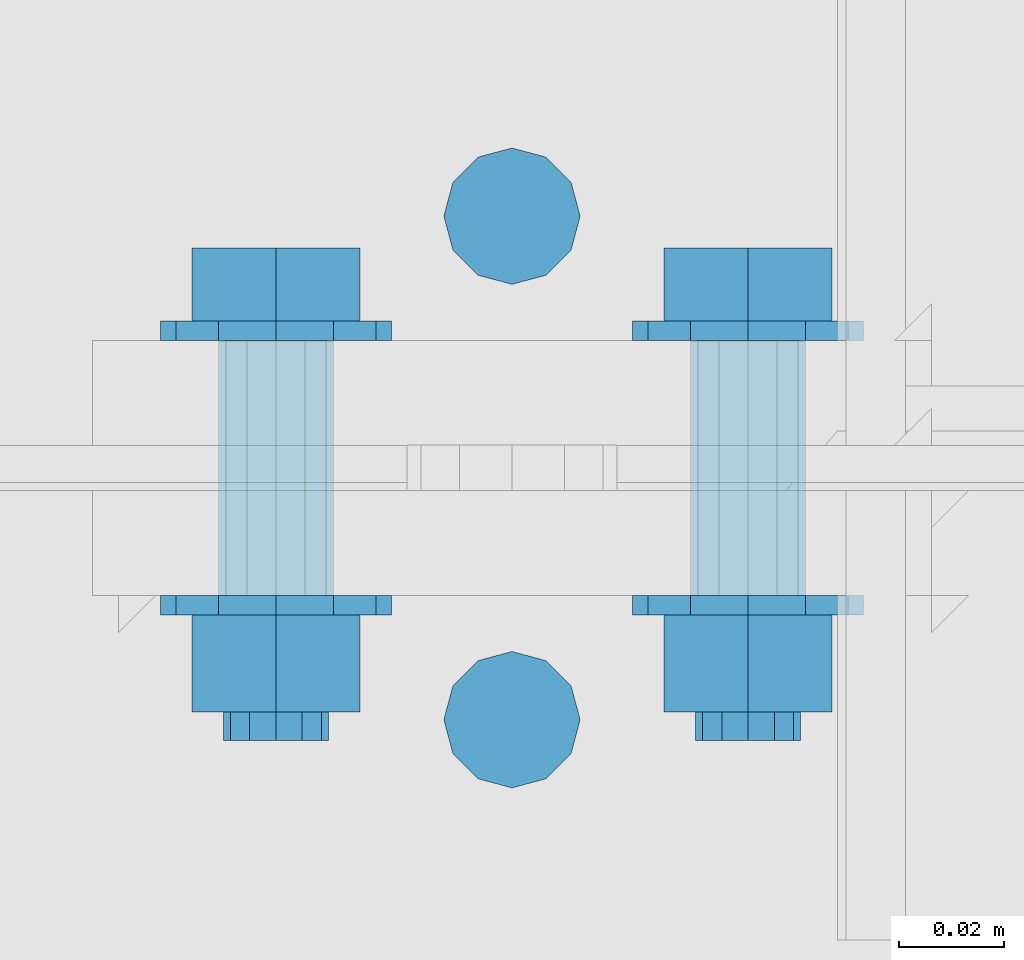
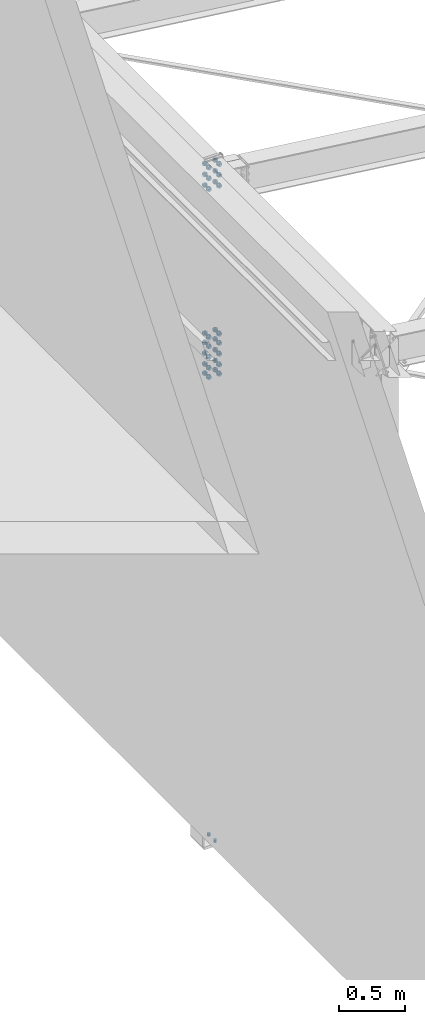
# One storey, part 31 of 3134: 3 mechanical fasteners, 2 elements without a shape of their own.
"""IFC2X3 building model written with IfcOpenShell, lengths in millimetres."""

from ifc_helpers import new_model, si_unit, frame, origin_with_axes, place, context, subcontext, project, spatial, faceted_brep, source, transform, mapped, material, type_object, element, aggregate, save


model = new_model("IFC2X3")

# Units and contexts
model_context = context("Model", 3, precision=1e-05, world=origin_with_axes())
body_context = subcontext(model_context, "Body", "Model", "MODEL_VIEW")
ifc_project = project(units=[si_unit("LENGTHUNIT", "METRE", prefix="MILLI"), si_unit("AREAUNIT", "SQUARE_METRE"), si_unit("VOLUMEUNIT", "CUBIC_METRE"), si_unit("MASSUNIT", "GRAM", prefix="KILO"), si_unit("TIMEUNIT", "SECOND"), si_unit("PLANEANGLEUNIT", "RADIAN"), si_unit("SOLIDANGLEUNIT", "STERADIAN"), si_unit("THERMODYNAMICTEMPERATUREUNIT", "DEGREE_CELSIUS"), si_unit("LUMINOUSINTENSITYUNIT", "LUMEN")], contexts=[model_context])

# Site, building, storey
site_placement = place(None, origin_with_axes())
site = spatial("IfcSite", under=ifc_project, at=site_placement, CompositionType="ELEMENT")
building_placement = place(site_placement, origin_with_axes())
building = spatial("IfcBuilding", under=site, at=building_placement, Name="Undefined", CompositionType="ELEMENT")
storey_placement = place(building_placement, origin_with_axes())
storey = spatial("IfcBuildingStorey", under=building, at=storey_placement, Name="Undefined", CompositionType="ELEMENT", Elevation=0.0)

# Assembly, mechanical fasteners
assembly_1_placement = place(storey_placement, origin_with_axes())
assembly_1 = element("IfcElementAssembly", 1, at=assembly_1_placement, inside=storey, Name="300", AssemblyPlace="NOTDEFINED", PredefinedType="RIGID_FRAME")
ifc_material_1 = material(Name="HR10.9")
mechanical_fastener_type = type_object("IfcMechanicalFastenerType", Name="Bolt assembly")
shared_shape_1 = source(origin_with_axes(), body_context, "Body", "Brep", [
    faceted_brep([(18.475208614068, -61.8999996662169, 0.0), (9.23760430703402, -61.8999996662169, 16.0), (-9.23760430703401, -61.8999996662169, 16.0), (-18.475208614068, -61.8999996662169, 2.2625605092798e-15), (-9.23760430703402, -61.8999996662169, -16.0), (9.237604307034, -61.8999996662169, -16.0), (9.237604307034, -48.0000000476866, -16.0), (-9.23760430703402, -48.0000000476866, -16.0), (-18.475208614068, -48.0000000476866, 2.2625605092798e-15), (-9.23760430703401, -48.0000000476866, 16.0), (9.23760430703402, -48.0000000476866, 16.0), (18.475208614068, -48.0000000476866, 0.0), (10.0, -48.0000000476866, 0.0), (8.66025403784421, -48.0000000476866, 5.0000000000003), (4.9999999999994, -48.0000000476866, 8.66025403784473), (-1.03633598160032e-12, -48.0000000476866, 10.0), (-5.00000000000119, -48.0000000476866, 8.6602540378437), (-8.66025403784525, -48.0000000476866, 4.99999999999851), (-10.0, -48.0000000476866, -2.07267196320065e-12), (-8.66025403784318, -48.0000000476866, -5.00000000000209), (-4.99999999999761, -48.0000000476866, -8.66025403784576), (3.09790571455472e-12, -48.0000000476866, -10.0), (5.00000000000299, -48.0000000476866, -8.66025403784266), (8.66025403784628, -48.0000000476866, -4.99999999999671), (8.66025403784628, 31.9999999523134, -4.99999999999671), (5.00000000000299, 31.9999999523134, -8.66025403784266), (3.09790571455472e-12, 31.9999999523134, -10.0), (-4.99999999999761, 31.9999999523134, -8.66025403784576), (-8.66025403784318, 31.9999999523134, -5.00000000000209), (-10.0, 31.9999999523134, -2.07267196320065e-12), (-8.66025403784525, 31.9999999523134, 4.99999999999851), (-5.00000000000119, 31.9999999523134, 8.6602540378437), (-1.03633598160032e-12, 31.9999999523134, 10.0), (4.9999999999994, 31.9999999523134, 8.66025403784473), (8.66025403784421, 31.9999999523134, 5.0000000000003), (10.0, 31.9999999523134, 0.0), (22.0, -48.0000000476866, 0.0), (19.0525588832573, -48.0000000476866, 11.0000000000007), (10.9999999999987, -48.0000000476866, 19.0525588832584), (-2.27993915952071e-12, -48.0000000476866, 22.0), (-11.0000000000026, -48.0000000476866, 19.0525588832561), (-19.0525588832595, -48.0000000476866, 10.9999999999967), (-22.0, -48.0000000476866, -4.55987831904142e-12), (-19.052558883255, -48.0000000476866, -11.0000000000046), (-10.9999999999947, -48.0000000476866, -19.0525588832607), (6.81539257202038e-12, -48.0000000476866, -22.0), (11.0000000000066, -48.0000000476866, -19.0525588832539), (19.0525588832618, -48.0000000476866, -10.9999999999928), (19.0525588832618, -44.3000000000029, -10.9999999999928), (11.0000000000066, -44.3000000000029, -19.0525588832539), (6.81539257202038e-12, -44.3000000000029, -22.0), (-10.9999999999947, -44.3000000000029, -19.0525588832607), (-19.052558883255, -44.3000000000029, -11.0000000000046), (-22.0, -44.3000000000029, -4.55987831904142e-12), (-19.0525588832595, -44.3000000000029, 10.9999999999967), (-11.0000000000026, -44.3000000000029, 19.0525588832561), (-2.27993915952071e-12, -44.3000000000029, 22.0), (10.9999999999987, -44.3000000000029, 19.0525588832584), (19.0525588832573, -44.3000000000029, 11.0000000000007), (22.0, -44.3000000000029, 0.0), (22.0, 4.30000000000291, 0.0), (19.0525588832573, 4.30000000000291, 11.0000000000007), (10.9999999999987, 4.30000000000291, 19.0525588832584), (-2.27993915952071e-12, 4.30000000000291, 22.0), (-11.0000000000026, 4.30000000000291, 19.0525588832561), (-19.0525588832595, 4.30000000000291, 10.9999999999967), (-22.0, 4.30000000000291, -4.55987831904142e-12), (-19.052558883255, 4.30000000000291, -11.0000000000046), (-10.9999999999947, 4.30000000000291, -19.0525588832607), (6.81539257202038e-12, 4.30000000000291, -22.0), (11.0000000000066, 4.30000000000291, -19.0525588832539), (19.0525588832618, 4.30000000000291, -10.9999999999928), (19.0525588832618, 8.00000004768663, -10.9999999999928), (11.0000000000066, 8.00000004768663, -19.0525588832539), (6.81539257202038e-12, 8.00000004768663, -22.0), (-10.9999999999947, 8.00000004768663, -19.0525588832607), (-19.052558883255, 8.00000004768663, -11.0000000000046), (-22.0, 8.00000004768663, -4.55987831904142e-12), (-19.0525588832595, 8.00000004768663, 10.9999999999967), (-11.0000000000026, 8.00000004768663, 19.0525588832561), (-2.27993915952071e-12, 8.00000004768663, 22.0), (10.9999999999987, 8.00000004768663, 19.0525588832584), (19.0525588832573, 8.00000004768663, 11.0000000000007), (22.0, 8.00000004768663, 0.0), (18.475208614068, 8.00000004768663, 0.0), (9.23760430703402, 8.00000004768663, 16.0), (-9.23760430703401, 8.00000004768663, 16.0), (-18.475208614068, 8.00000004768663, 2.2625605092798e-15), (-9.23760430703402, 8.00000004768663, -16.0), (9.237604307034, 8.00000004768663, -16.0), (9.237604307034, 26.5499992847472, -16.0), (-9.23760430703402, 26.5499992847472, -16.0), (-18.475208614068, 26.5499992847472, 2.2625605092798e-15), (-9.23760430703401, 26.5499992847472, 16.0), (9.23760430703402, 26.5499992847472, 16.0), (18.475208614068, 26.5499992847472, 0.0)], [[[0, 1, 2, 3, 4, 5]], [[6, 7, 8, 9, 10, 11]], [[0, 11, 10, 1]], [[1, 10, 9, 2]], [[2, 9, 8, 3]], [[3, 8, 7, 4]], [[4, 7, 6, 5]], [[5, 6, 11, 0]], [[12, 13, 14, 15, 16, 17, 18, 19, 20, 21, 22, 23]], [[24, 25, 26, 27, 28, 29, 30, 31, 32, 33, 34, 35]], [[12, 35, 34, 13]], [[13, 34, 33, 14]], [[14, 33, 32, 15]], [[15, 32, 31, 16]], [[16, 31, 30, 17]], [[17, 30, 29, 18]], [[18, 29, 28, 19]], [[19, 28, 27, 20]], [[20, 27, 26, 21]], [[21, 26, 25, 22]], [[22, 25, 24, 23]], [[23, 24, 35, 12]], [[36, 37, 38, 39, 40, 41, 42, 43, 44, 45, 46, 47]], [[48, 49, 50, 51, 52, 53, 54, 55, 56, 57, 58, 59]], [[36, 59, 58, 37]], [[37, 58, 57, 38]], [[38, 57, 56, 39]], [[39, 56, 55, 40]], [[40, 55, 54, 41]], [[41, 54, 53, 42]], [[42, 53, 52, 43]], [[43, 52, 51, 44]], [[44, 51, 50, 45]], [[45, 50, 49, 46]], [[46, 49, 48, 47]], [[47, 48, 59, 36]], [[60, 61, 62, 63, 64, 65, 66, 67, 68, 69, 70, 71]], [[72, 73, 74, 75, 76, 77, 78, 79, 80, 81, 82, 83]], [[60, 83, 82, 61]], [[61, 82, 81, 62]], [[62, 81, 80, 63]], [[63, 80, 79, 64]], [[64, 79, 78, 65]], [[65, 78, 77, 66]], [[66, 77, 76, 67]], [[67, 76, 75, 68]], [[68, 75, 74, 69]], [[69, 74, 73, 70]], [[70, 73, 72, 71]], [[71, 72, 83, 60]], [[84, 85, 86, 87, 88, 89]], [[90, 91, 92, 93, 94, 95]], [[84, 95, 94, 85]], [[85, 94, 93, 86]], [[86, 93, 92, 87]], [[87, 92, 91, 88]], [[88, 91, 90, 89]], [[89, 90, 95, 84]]]),
    faceted_brep([(11.0, -24.3000001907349, 0.0), (9.52627944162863, -24.3000001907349, 5.50000000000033), (5.49999999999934, -24.3000001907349, 9.5262794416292), (-1.13996957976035e-12, -24.3000001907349, 11.0), (-5.50000000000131, -24.3000001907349, 9.52627944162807), (-9.52627944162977, -24.3000001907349, 5.49999999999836), (-11.0, -24.3000001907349, -2.27993915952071e-12), (-9.5262794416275, -24.3000001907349, -5.5000000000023), (-5.49999999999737, -24.3000001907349, -9.52627944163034), (3.40769628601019e-12, -24.3000001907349, -11.0), (5.50000000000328, -24.3000001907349, -9.52627944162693), (9.52627944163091, -24.3000001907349, -5.49999999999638), (9.52627944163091, -15.6999998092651, -5.49999999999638), (5.50000000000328, -15.6999998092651, -9.52627944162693), (3.40769628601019e-12, -15.6999998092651, -11.0), (-5.49999999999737, -15.6999998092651, -9.52627944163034), (-9.5262794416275, -15.6999998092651, -5.5000000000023), (-11.0, -15.6999998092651, -2.27993915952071e-12), (-9.52627944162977, -15.6999998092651, 5.49999999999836), (-5.50000000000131, -15.6999998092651, 9.52627944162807), (-1.13996957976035e-12, -15.6999998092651, 11.0), (5.49999999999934, -15.6999998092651, 9.5262794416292), (9.52627944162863, -15.6999998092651, 5.50000000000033), (11.0, -15.6999998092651, 0.0), (11.0, -44.2000000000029, 0.0), (9.52627944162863, -44.2000000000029, 5.50000000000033), (5.49999999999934, -44.2000000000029, 9.5262794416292), (-1.13996957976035e-12, -44.2000000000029, 11.0), (-5.50000000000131, -44.2000000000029, 9.52627944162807), (-9.52627944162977, -44.2000000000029, 5.49999999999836), (-11.0, -44.2000000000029, -2.27993915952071e-12), (-9.5262794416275, -44.2000000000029, -5.5000000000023), (-5.49999999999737, -44.2000000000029, -9.52627944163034), (3.40769628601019e-12, -44.2000000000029, -11.0), (5.50000000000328, -44.2000000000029, -9.52627944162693), (9.52627944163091, -44.2000000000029, -5.49999999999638), (9.52627944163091, -24.2000000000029, -5.49999999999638), (5.50000000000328, -24.2000000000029, -9.52627944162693), (3.40769628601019e-12, -24.2000000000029, -11.0), (-5.49999999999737, -24.2000000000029, -9.52627944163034), (-9.5262794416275, -24.2000000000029, -5.5000000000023), (-11.0, -24.2000000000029, -2.27993915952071e-12), (-9.52627944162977, -24.2000000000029, 5.49999999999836), (-5.50000000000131, -24.2000000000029, 9.52627944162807), (-1.13996957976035e-12, -24.2000000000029, 11.0), (5.49999999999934, -24.2000000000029, 9.5262794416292), (9.52627944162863, -24.2000000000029, 5.50000000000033), (11.0, -24.2000000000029, 0.0), (11.0, -15.7999999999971, 0.0), (9.52627944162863, -15.7999999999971, 5.50000000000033), (5.49999999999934, -15.7999999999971, 9.5262794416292), (-1.13996957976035e-12, -15.7999999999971, 11.0), (-5.50000000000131, -15.7999999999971, 9.52627944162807), (-9.52627944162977, -15.7999999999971, 5.49999999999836), (-11.0, -15.7999999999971, -2.27993915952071e-12), (-9.5262794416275, -15.7999999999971, -5.5000000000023), (-5.49999999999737, -15.7999999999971, -9.52627944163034), (3.40769628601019e-12, -15.7999999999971, -11.0), (5.50000000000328, -15.7999999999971, -9.52627944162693), (9.52627944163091, -15.7999999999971, -5.49999999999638), (9.52627944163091, 4.30000000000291, -5.49999999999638), (5.50000000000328, 4.30000000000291, -9.52627944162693), (3.40769628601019e-12, 4.30000000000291, -11.0), (-5.49999999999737, 4.30000000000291, -9.52627944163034), (-9.5262794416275, 4.30000000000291, -5.5000000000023), (-11.0, 4.30000000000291, -2.27993915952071e-12), (-9.52627944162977, 4.30000000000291, 5.49999999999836), (-5.50000000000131, 4.30000000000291, 9.52627944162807), (-1.13996957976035e-12, 4.30000000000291, 11.0), (5.49999999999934, 4.30000000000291, 9.5262794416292), (9.52627944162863, 4.30000000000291, 5.50000000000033), (11.0, 4.30000000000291, 0.0)], [[[0, 1, 2, 3, 4, 5, 6, 7, 8, 9, 10, 11]], [[12, 13, 14, 15, 16, 17, 18, 19, 20, 21, 22, 23]], [[0, 23, 22, 1]], [[1, 22, 21, 2]], [[2, 21, 20, 3]], [[3, 20, 19, 4]], [[4, 19, 18, 5]], [[5, 18, 17, 6]], [[6, 17, 16, 7]], [[7, 16, 15, 8]], [[8, 15, 14, 9]], [[9, 14, 13, 10]], [[10, 13, 12, 11]], [[11, 12, 23, 0]], [[24, 25, 26, 27, 28, 29, 30, 31, 32, 33, 34, 35]], [[36, 37, 38, 39, 40, 41, 42, 43, 44, 45, 46, 47]], [[24, 47, 46, 25]], [[25, 46, 45, 26]], [[26, 45, 44, 27]], [[27, 44, 43, 28]], [[28, 43, 42, 29]], [[29, 42, 41, 30]], [[30, 41, 40, 31]], [[31, 40, 39, 32]], [[32, 39, 38, 33]], [[33, 38, 37, 34]], [[34, 37, 36, 35]], [[35, 36, 47, 24]], [[48, 49, 50, 51, 52, 53, 54, 55, 56, 57, 58, 59]], [[60, 61, 62, 63, 64, 65, 66, 67, 68, 69, 70, 71]], [[48, 71, 70, 49]], [[49, 70, 69, 50]], [[50, 69, 68, 51]], [[51, 68, 67, 52]], [[52, 67, 66, 53]], [[53, 66, 65, 54]], [[54, 65, 64, 55]], [[55, 64, 63, 56]], [[56, 63, 62, 57]], [[57, 62, 61, 58]], [[58, 61, 60, 59]], [[59, 60, 71, 48]]]),
])
mechanical_fastener_1_placement = place(assembly_1_placement, frame((20850.0, 7630.0, 5841.5), z_axis=(-1.0, 0.0, 0.0), x_axis=(0.0, 0.0, -1.0)))
mechanical_fastener_1 = element("IfcMechanicalFastener", 2, at=mechanical_fastener_1_placement, type_object=mechanical_fastener_type, material=ifc_material_1, Name="Bolt assembly", NominalDiameter=20.0, NominalLength=80.0, context=body_context, shape_type="MappedRepresentation", body=[
    mapped(shared_shape_1, transform((0.0, 0.0, -45.0))),
    mapped(shared_shape_1, transform((100.0, 0.0, -45.0))),
    mapped(shared_shape_1, transform((200.0, 0.0, -45.0))),
    mapped(shared_shape_1, transform((0.0, 0.0, 45.0))),
    mapped(shared_shape_1, transform((100.0, 0.0, 45.0))),
    mapped(shared_shape_1, transform((200.0, 0.0, 45.0))),
])
shared_shape_2 = source(origin_with_axes(), body_context, "Body", "Brep", [
    faceted_brep([(18.475208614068, -17.599999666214, 0.0), (9.23760430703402, -17.599999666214, 16.0), (-9.23760430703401, -17.599999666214, 16.0), (-18.475208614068, -17.599999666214, 2.2625605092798e-15), (-9.23760430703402, -17.599999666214, -16.0), (9.237604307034, -17.599999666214, -16.0), (9.237604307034, -3.70000004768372, -16.0), (-9.23760430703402, -3.70000004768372, -16.0), (-18.475208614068, -3.70000004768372, 2.2625605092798e-15), (-9.23760430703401, -3.70000004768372, 16.0), (9.23760430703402, -3.70000004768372, 16.0), (18.475208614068, -3.70000004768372, 0.0), (10.0, -3.70000004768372, 0.0), (8.66025403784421, -3.70000004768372, 5.0000000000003), (4.9999999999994, -3.70000004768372, 8.66025403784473), (-1.03633598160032e-12, -3.70000004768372, 10.0), (-5.00000000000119, -3.70000004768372, 8.6602540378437), (-8.66025403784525, -3.70000004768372, 4.99999999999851), (-10.0, -3.70000004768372, -2.07267196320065e-12), (-8.66025403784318, -3.70000004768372, -5.00000000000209), (-4.99999999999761, -3.70000004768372, -8.66025403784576), (3.09790571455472e-12, -3.70000004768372, -10.0), (5.00000000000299, -3.70000004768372, -8.66025403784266), (8.66025403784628, -3.70000004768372, -4.99999999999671), (8.66025403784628, 76.2999999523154, -4.99999999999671), (5.00000000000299, 76.2999999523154, -8.66025403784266), (3.09790571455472e-12, 76.2999999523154, -10.0), (-4.99999999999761, 76.2999999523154, -8.66025403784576), (-8.66025403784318, 76.2999999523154, -5.00000000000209), (-10.0, 76.2999999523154, -2.07267196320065e-12), (-8.66025403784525, 76.2999999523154, 4.99999999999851), (-5.00000000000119, 76.2999999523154, 8.6602540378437), (-1.03633598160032e-12, 76.2999999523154, 10.0), (4.9999999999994, 76.2999999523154, 8.66025403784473), (8.66025403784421, 76.2999999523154, 5.0000000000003), (10.0, 76.2999999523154, 0.0), (22.0, -3.70000004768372, 0.0), (19.0525588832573, -3.70000004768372, 11.0000000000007), (10.9999999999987, -3.70000004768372, 19.0525588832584), (-2.27993915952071e-12, -3.70000004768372, 22.0), (-11.0000000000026, -3.70000004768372, 19.0525588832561), (-19.0525588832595, -3.70000004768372, 10.9999999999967), (-22.0, -3.70000004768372, -4.55987831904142e-12), (-19.052558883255, -3.70000004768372, -11.0000000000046), (-10.9999999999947, -3.70000004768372, -19.0525588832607), (6.81539257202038e-12, -3.70000004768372, -22.0), (11.0000000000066, -3.70000004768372, -19.0525588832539), (19.0525588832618, -3.70000004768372, -10.9999999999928), (19.0525588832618, 0.0, -10.9999999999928), (11.0000000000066, 0.0, -19.0525588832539), (6.81539257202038e-12, 0.0, -22.0), (-10.9999999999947, 0.0, -19.0525588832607), (-19.052558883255, 0.0, -11.0000000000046), (-22.0, 0.0, -4.55987831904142e-12), (-19.0525588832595, 0.0, 10.9999999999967), (-11.0000000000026, 0.0, 19.0525588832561), (-2.27993915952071e-12, 0.0, 22.0), (10.9999999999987, 0.0, 19.0525588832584), (19.0525588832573, 0.0, 11.0000000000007), (22.0, 0.0, 0.0), (22.0, 48.5999999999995, 0.0), (19.0525588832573, 48.5999999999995, 11.0000000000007), (10.9999999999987, 48.5999999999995, 19.0525588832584), (-2.27993915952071e-12, 48.5999999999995, 22.0), (-11.0000000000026, 48.5999999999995, 19.0525588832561), (-19.0525588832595, 48.5999999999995, 10.9999999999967), (-22.0, 48.5999999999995, -4.55987831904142e-12), (-19.052558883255, 48.5999999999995, -11.0000000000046), (-10.9999999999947, 48.5999999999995, -19.0525588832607), (6.81539257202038e-12, 48.5999999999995, -22.0), (11.0000000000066, 48.5999999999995, -19.0525588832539), (19.0525588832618, 48.5999999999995, -10.9999999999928), (19.0525588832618, 52.3000000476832, -10.9999999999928), (11.0000000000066, 52.3000000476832, -19.0525588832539), (6.81539257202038e-12, 52.3000000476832, -22.0), (-10.9999999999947, 52.3000000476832, -19.0525588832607), (-19.052558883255, 52.3000000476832, -11.0000000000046), (-22.0, 52.3000000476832, -4.55987831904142e-12), (-19.0525588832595, 52.3000000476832, 10.9999999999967), (-11.0000000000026, 52.3000000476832, 19.0525588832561), (-2.27993915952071e-12, 52.3000000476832, 22.0), (10.9999999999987, 52.3000000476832, 19.0525588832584), (19.0525588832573, 52.3000000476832, 11.0000000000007), (22.0, 52.3000000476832, 0.0), (18.475208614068, 52.3000000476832, 0.0), (9.23760430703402, 52.3000000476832, 16.0), (-9.23760430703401, 52.3000000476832, 16.0), (-18.475208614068, 52.3000000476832, 2.2625605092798e-15), (-9.23760430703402, 52.3000000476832, -16.0), (9.237604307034, 52.3000000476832, -16.0), (9.237604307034, 70.8499992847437, -16.0), (-9.23760430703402, 70.8499992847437, -16.0), (-18.475208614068, 70.8499992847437, 2.2625605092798e-15), (-9.23760430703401, 70.8499992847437, 16.0), (9.23760430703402, 70.8499992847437, 16.0), (18.475208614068, 70.8499992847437, 0.0)], [[[0, 1, 2, 3, 4, 5]], [[6, 7, 8, 9, 10, 11]], [[0, 11, 10, 1]], [[1, 10, 9, 2]], [[2, 9, 8, 3]], [[3, 8, 7, 4]], [[4, 7, 6, 5]], [[5, 6, 11, 0]], [[12, 13, 14, 15, 16, 17, 18, 19, 20, 21, 22, 23]], [[24, 25, 26, 27, 28, 29, 30, 31, 32, 33, 34, 35]], [[12, 35, 34, 13]], [[13, 34, 33, 14]], [[14, 33, 32, 15]], [[15, 32, 31, 16]], [[16, 31, 30, 17]], [[17, 30, 29, 18]], [[18, 29, 28, 19]], [[19, 28, 27, 20]], [[20, 27, 26, 21]], [[21, 26, 25, 22]], [[22, 25, 24, 23]], [[23, 24, 35, 12]], [[36, 37, 38, 39, 40, 41, 42, 43, 44, 45, 46, 47]], [[48, 49, 50, 51, 52, 53, 54, 55, 56, 57, 58, 59]], [[36, 59, 58, 37]], [[37, 58, 57, 38]], [[38, 57, 56, 39]], [[39, 56, 55, 40]], [[40, 55, 54, 41]], [[41, 54, 53, 42]], [[42, 53, 52, 43]], [[43, 52, 51, 44]], [[44, 51, 50, 45]], [[45, 50, 49, 46]], [[46, 49, 48, 47]], [[47, 48, 59, 36]], [[60, 61, 62, 63, 64, 65, 66, 67, 68, 69, 70, 71]], [[72, 73, 74, 75, 76, 77, 78, 79, 80, 81, 82, 83]], [[60, 83, 82, 61]], [[61, 82, 81, 62]], [[62, 81, 80, 63]], [[63, 80, 79, 64]], [[64, 79, 78, 65]], [[65, 78, 77, 66]], [[66, 77, 76, 67]], [[67, 76, 75, 68]], [[68, 75, 74, 69]], [[69, 74, 73, 70]], [[70, 73, 72, 71]], [[71, 72, 83, 60]], [[84, 85, 86, 87, 88, 89]], [[90, 91, 92, 93, 94, 95]], [[84, 95, 94, 85]], [[85, 94, 93, 86]], [[86, 93, 92, 87]], [[87, 92, 91, 88]], [[88, 91, 90, 89]], [[89, 90, 95, 84]]]),
    faceted_brep([(11.0, 20.0, 0.0), (9.52627944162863, 20.0, 5.50000000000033), (5.49999999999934, 20.0, 9.5262794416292), (-1.13996957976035e-12, 20.0, 11.0), (-5.50000000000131, 20.0, 9.52627944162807), (-9.52627944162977, 20.0, 5.49999999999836), (-11.0, 20.0, -2.27993915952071e-12), (-9.5262794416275, 20.0, -5.5000000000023), (-5.49999999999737, 20.0, -9.52627944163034), (3.40769628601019e-12, 20.0, -11.0), (5.50000000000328, 20.0, -9.52627944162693), (9.52627944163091, 20.0, -5.49999999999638), (9.52627944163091, 28.6000001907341, -5.49999999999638), (5.50000000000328, 28.6000001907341, -9.52627944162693), (3.40769628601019e-12, 28.6000001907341, -11.0), (-5.49999999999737, 28.6000001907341, -9.52627944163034), (-9.5262794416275, 28.6000001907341, -5.5000000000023), (-11.0, 28.6000001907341, -2.27993915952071e-12), (-9.52627944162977, 28.6000001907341, 5.49999999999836), (-5.50000000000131, 28.6000001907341, 9.52627944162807), (-1.13996957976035e-12, 28.6000001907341, 11.0), (5.49999999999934, 28.6000001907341, 9.5262794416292), (9.52627944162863, 28.6000001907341, 5.50000000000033), (11.0, 28.6000001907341, 0.0), (11.0, 0.0999999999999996, 0.0), (9.52627944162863, 0.0999999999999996, 5.50000000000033), (5.49999999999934, 0.0999999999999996, 9.5262794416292), (-1.13996957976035e-12, 0.0999999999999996, 11.0), (-5.50000000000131, 0.0999999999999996, 9.52627944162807), (-9.52627944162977, 0.0999999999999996, 5.49999999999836), (-11.0, 0.0999999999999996, -2.27993915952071e-12), (-9.5262794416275, 0.0999999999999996, -5.5000000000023), (-5.49999999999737, 0.0999999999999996, -9.52627944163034), (3.40769628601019e-12, 0.0999999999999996, -11.0), (5.50000000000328, 0.0999999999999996, -9.52627944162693), (9.52627944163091, 0.0999999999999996, -5.49999999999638), (9.52627944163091, 20.1, -5.49999999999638), (5.50000000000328, 20.1, -9.52627944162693), (3.40769628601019e-12, 20.1, -11.0), (-5.49999999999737, 20.1, -9.52627944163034), (-9.5262794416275, 20.1, -5.5000000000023), (-11.0, 20.1, -2.27993915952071e-12), (-9.52627944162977, 20.1, 5.49999999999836), (-5.50000000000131, 20.1, 9.52627944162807), (-1.13996957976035e-12, 20.1, 11.0), (5.49999999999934, 20.1, 9.5262794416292), (9.52627944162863, 20.1, 5.50000000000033), (11.0, 20.1, 0.0), (11.0, 28.4999999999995, 0.0), (9.52627944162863, 28.4999999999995, 5.50000000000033), (5.49999999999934, 28.4999999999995, 9.5262794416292), (-1.13996957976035e-12, 28.4999999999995, 11.0), (-5.50000000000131, 28.4999999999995, 9.52627944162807), (-9.52627944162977, 28.4999999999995, 5.49999999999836), (-11.0, 28.4999999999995, -2.27993915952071e-12), (-9.5262794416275, 28.4999999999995, -5.5000000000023), (-5.49999999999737, 28.4999999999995, -9.52627944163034), (3.40769628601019e-12, 28.4999999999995, -11.0), (5.50000000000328, 28.4999999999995, -9.52627944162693), (9.52627944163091, 28.4999999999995, -5.49999999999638), (9.52627944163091, 48.5999999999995, -5.49999999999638), (5.50000000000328, 48.5999999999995, -9.52627944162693), (3.40769628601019e-12, 48.5999999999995, -11.0), (-5.49999999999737, 48.5999999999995, -9.52627944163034), (-9.5262794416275, 48.5999999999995, -5.5000000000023), (-11.0, 48.5999999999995, -2.27993915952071e-12), (-9.52627944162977, 48.5999999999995, 5.49999999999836), (-5.50000000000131, 48.5999999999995, 9.52627944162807), (-1.13996957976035e-12, 48.5999999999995, 11.0), (5.49999999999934, 48.5999999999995, 9.5262794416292), (9.52627944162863, 48.5999999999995, 5.50000000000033), (11.0, 48.5999999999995, 0.0)], [[[0, 1, 2, 3, 4, 5, 6, 7, 8, 9, 10, 11]], [[12, 13, 14, 15, 16, 17, 18, 19, 20, 21, 22, 23]], [[0, 23, 22, 1]], [[1, 22, 21, 2]], [[2, 21, 20, 3]], [[3, 20, 19, 4]], [[4, 19, 18, 5]], [[5, 18, 17, 6]], [[6, 17, 16, 7]], [[7, 16, 15, 8]], [[8, 15, 14, 9]], [[9, 14, 13, 10]], [[10, 13, 12, 11]], [[11, 12, 23, 0]], [[24, 25, 26, 27, 28, 29, 30, 31, 32, 33, 34, 35]], [[36, 37, 38, 39, 40, 41, 42, 43, 44, 45, 46, 47]], [[24, 47, 46, 25]], [[25, 46, 45, 26]], [[26, 45, 44, 27]], [[27, 44, 43, 28]], [[28, 43, 42, 29]], [[29, 42, 41, 30]], [[30, 41, 40, 31]], [[31, 40, 39, 32]], [[32, 39, 38, 33]], [[33, 38, 37, 34]], [[34, 37, 36, 35]], [[35, 36, 47, 24]], [[48, 49, 50, 51, 52, 53, 54, 55, 56, 57, 58, 59]], [[60, 61, 62, 63, 64, 65, 66, 67, 68, 69, 70, 71]], [[48, 71, 70, 49]], [[49, 70, 69, 50]], [[50, 69, 68, 51]], [[51, 68, 67, 52]], [[52, 67, 66, 53]], [[53, 66, 65, 54]], [[54, 65, 64, 55]], [[55, 64, 63, 56]], [[56, 63, 62, 57]], [[57, 62, 61, 58]], [[58, 61, 60, 59]], [[59, 60, 71, 48]]]),
])
mechanical_fastener_2_placement = place(assembly_1_placement, frame((20850.0, 7674.3, 4273.5), z_axis=(-1.0, 0.0, 0.0), x_axis=(0.0, 0.0, -1.0)))
mechanical_fastener_2 = element("IfcMechanicalFastener", 3, at=mechanical_fastener_2_placement, type_object=mechanical_fastener_type, material=ifc_material_1, Name="Bolt assembly", NominalDiameter=20.0, NominalLength=80.0, context=body_context, shape_type="MappedRepresentation", body=[
    mapped(shared_shape_2, transform((0.0, 0.0, -45.0))),
    mapped(shared_shape_2, transform((85.0, 0.0, -45.0))),
    mapped(shared_shape_2, transform((185.0, 0.0, -45.0))),
    mapped(shared_shape_2, transform((285.0, 0.0, -45.0))),
    mapped(shared_shape_2, transform((370.0, 0.0, -45.0))),
    mapped(shared_shape_2, transform((0.0, 0.0, 45.0))),
    mapped(shared_shape_2, transform((85.0, 0.0, 45.0))),
    mapped(shared_shape_2, transform((185.0, 0.0, 45.0))),
    mapped(shared_shape_2, transform((285.0, 0.0, 45.0))),
    mapped(shared_shape_2, transform((370.0, 0.0, 45.0))),
])
aggregate(assembly_1, [mechanical_fastener_2, mechanical_fastener_1])

# Assembly, mechanical fastener
assembly_2_placement = place(storey_placement, origin_with_axes())
assembly_2 = element("IfcElementAssembly", 4, at=assembly_2_placement, inside=storey, Name="IPE400", AssemblyPlace="NOTDEFINED", PredefinedType="RIGID_FRAME")
ifc_material_2 = material(Name="8.8")
shared_shape_3 = source(origin_with_axes(), body_context, "Body", "Brep", [
    faceted_brep([(13.0, -25.000000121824, 0.0), (11.2583302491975, -25.000000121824, 6.50000000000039), (6.49999999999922, -25.000000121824, 11.2583302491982), (-1.34723677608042e-12, -25.000000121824, 13.0), (-6.50000000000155, -25.000000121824, 11.2583302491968), (-11.2583302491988, -25.000000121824, 6.49999999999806), (-13.0, -25.000000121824, -2.69447355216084e-12), (-11.2583302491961, -25.000000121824, -6.50000000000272), (-6.4999999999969, -25.000000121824, -11.2583302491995), (4.02727742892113e-12, -25.000000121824, -13.0), (6.50000000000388, -25.000000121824, -11.2583302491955), (11.2583302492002, -25.000000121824, -6.49999999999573), (11.2583302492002, 0.100000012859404, -6.49999999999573), (6.50000000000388, 0.100000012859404, -11.2583302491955), (4.02727742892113e-12, 0.100000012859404, -13.0), (-6.4999999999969, 0.100000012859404, -11.2583302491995), (-11.2583302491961, 0.100000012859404, -6.50000000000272), (-13.0, 0.100000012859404, -2.69447355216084e-12), (-11.2583302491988, 0.100000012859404, 6.49999999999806), (-6.50000000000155, 0.100000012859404, 11.2583302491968), (-1.34723677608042e-12, 0.100000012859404, 13.0), (6.49999999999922, 0.100000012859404, 11.2583302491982), (11.2583302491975, 0.100000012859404, 6.50000000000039), (13.0, 0.100000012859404, 0.0)], [[[0, 1, 2, 3, 4, 5, 6, 7, 8, 9, 10, 11]], [[12, 13, 14, 15, 16, 17, 18, 19, 20, 21, 22, 23]], [[0, 23, 22, 1]], [[1, 22, 21, 2]], [[2, 21, 20, 3]], [[3, 20, 19, 4]], [[4, 19, 18, 5]], [[5, 18, 17, 6]], [[6, 17, 16, 7]], [[7, 16, 15, 8]], [[8, 15, 14, 9]], [[9, 14, 13, 10]], [[10, 13, 12, 11]], [[11, 12, 23, 0]]]),
])
mechanical_fastener_3_placement = place(assembly_2_placement, frame((21180.0, 7649.99999991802, -374.999999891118), z_axis=(0.0, 1.0, 0.0), x_axis=(-1.0, 0.0, 0.0)))
mechanical_fastener_3 = element("IfcMechanicalFastener", 5, at=mechanical_fastener_3_placement, type_object=mechanical_fastener_type, material=ifc_material_2, Name="Bolt assembly", NominalDiameter=24.0, NominalLength=25.0, context=body_context, shape_type="MappedRepresentation", body=[
    mapped(shared_shape_3, transform((330.0, 0.0, -48.0))),
    mapped(shared_shape_3, transform((330.0, 0.0, 48.0))),
])
aggregate(assembly_2, [mechanical_fastener_3])

save(model, "model.ifc")
